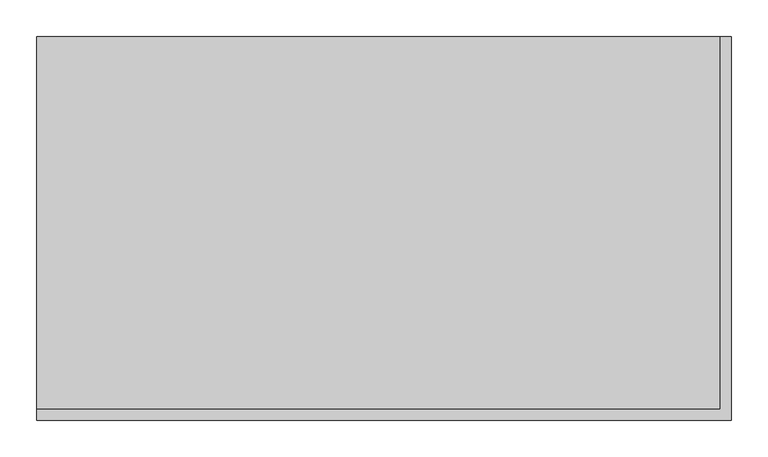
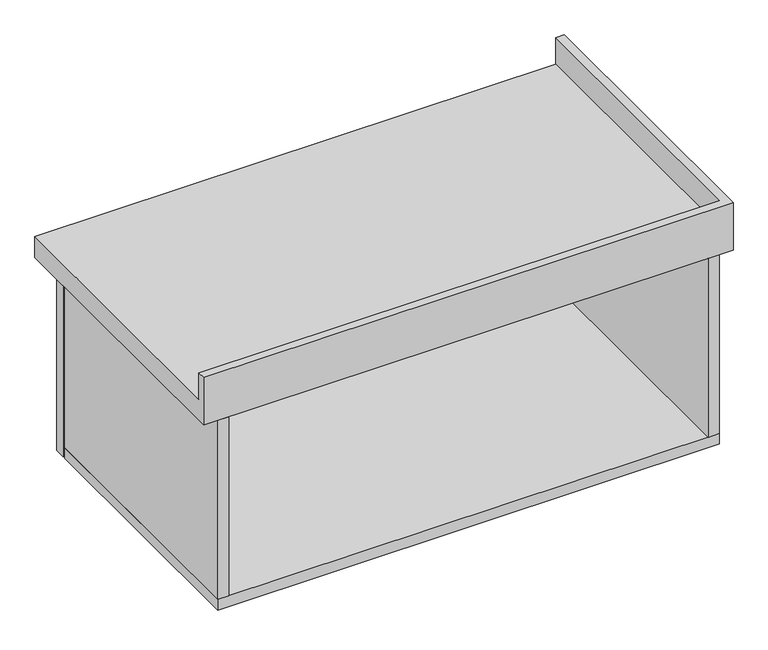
"""IFC4 building model written with IfcOpenShell, lengths in millimetres: furniture geometry, Mueble colgado 1 cajon - lavabo sobreponer : MB1b-mueble baño colgado-1 cajon - 90cm."""

from ifc_helpers import new_model, si_unit, frame, origin, place, context, project, spatial, polyline, outline, extrude, faceted_brep, source, transform, mapped, element, save


def furniture_2ba004f8(model_context):
    return source(origin(), model_context, "Body", "SolidModel", [
        faceted_brep([(585.0, 25.0, 800.0), (585.0, 25.0, 750.0), (-350.0, 25.0, 750.0), (-350.0, 25.0, 800.0), (-350.0, 10.0, 800.0), (600.0, 10.0, 800.0), (600.0, 535.0, 800.0), (585.0, 535.0, 800.0), (-350.0, 535.0, 750.0), (-350.0, 535.0, 710.0), (-350.0, 10.0, 710.0), (600.0, 10.0, 710.0), (600.0, 535.0, 710.0), (585.0, 535.0, 750.0)], [[[0, 1, 2, 3]], [[0, 3, 4, 5, 6, 7]], [[3, 2, 8, 9, 10, 4]], [[5, 4, 10, 11]], [[7, 6, 12, 9, 8, 13]], [[1, 0, 7, 13]], [[12, 6, 5, 11]], [[8, 2, 1, 13]], [[12, 11, 10, 9]]]),
        extrude(outline(polyline([(575.0, 510.0), (575.0, 490.0), (-325.0, 490.0), (-325.0, 510.0), (575.0, 510.0)])), frame((0.0, 0.0, 350.0), z_axis=(0.0, 0.0, 1.0), x_axis=(1.0, 0.0, 0.0)), (0.0, 0.0, 1.0), 350.0),
        extrude(outline(polyline([(575.0, 10.0), (555.0, 10.0), (555.0, 485.0), (575.0, 485.0), (575.0, 10.0)])), frame((0.0, 0.0, 370.0), z_axis=(0.0, 0.0, 1.0), x_axis=(1.0, 0.0, 0.0)), (0.0, 0.0, 1.0), 340.0),
        extrude(outline(polyline([(-305.0, 10.0), (-325.0, 10.0), (-325.0, 485.0), (-305.0, 485.0), (-305.0, 10.0)])), frame((0.0, 0.0, 370.0), z_axis=(0.0, 0.0, 1.0), x_axis=(1.0, 0.0, 0.0)), (0.0, 0.0, 1.0), 340.0),
        extrude(outline(polyline([(575.0, 485.0), (575.0, 10.0), (-325.0, 10.0), (-325.0, 485.0), (575.0, 485.0)])), frame((0.0, 0.0, 350.0), z_axis=(0.0, 0.0, 1.0), x_axis=(1.0, 0.0, 0.0)), (0.0, 0.0, 1.0), 20.0),
    ])


if __name__ == "__main__":
    model = new_model("IFC4")
    model_context = context("Model", 3, world=origin())
    ifc_project = project(units=[si_unit("LENGTHUNIT", "METRE", prefix="MILLI")], contexts=[model_context])
    site = spatial("IfcSite", under=ifc_project)
    building = spatial("IfcBuilding", under=site)
    placement = place(None, origin())
    furniture_shape = furniture_2ba004f8(model_context)
    element("IfcFurniture", 1, ObjectType="Mueble colgado 1 cajon - lavabo sobreponer : MB1b-mueble baño colgado-1 cajon - 90cm", at=placement, inside=building, context=model_context, shape_type="MappedRepresentation", body=[
        mapped(furniture_shape, transform((0.0, 0.0, 0.0), x_axis=(1.0, 0.0, 0.0), y_axis=(0.0, 1.0, 0.0), z_axis=(0.0, 0.0, 1.0))),
    ])
    save(model, "model.ifc")
